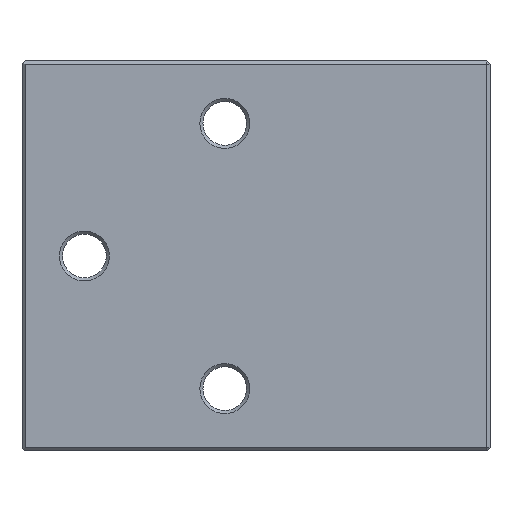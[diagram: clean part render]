
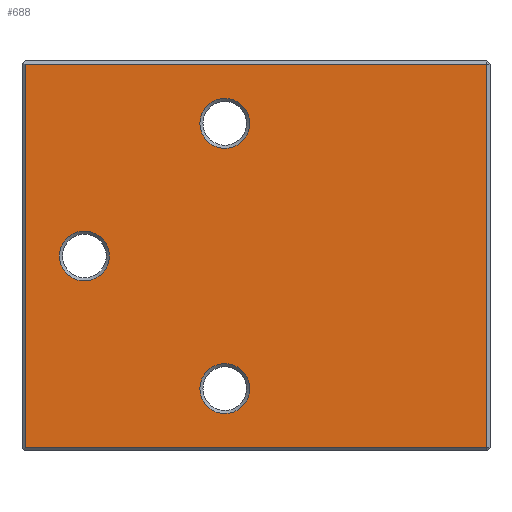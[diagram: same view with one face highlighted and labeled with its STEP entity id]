
A CAD part, front view. The second image highlights one B-rep face of the part: STEP entity #688.
In plain terms, the highlighted planar face has unit normal (0, -1, 0).
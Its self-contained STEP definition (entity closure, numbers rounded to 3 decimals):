
#44=FACE_BOUND('',#116,.T.);
#45=FACE_BOUND('',#117,.T.);
#46=FACE_BOUND('',#118,.T.);
#53=PLANE('',#751);
#74=FACE_OUTER_BOUND('',#115,.T.);
#115=EDGE_LOOP('',(#456,#457,#458,#459));
#116=EDGE_LOOP('',(#460));
#117=EDGE_LOOP('',(#461));
#118=EDGE_LOOP('',(#462));
#165=LINE('',#1060,#216);
#166=LINE('',#1062,#217);
#167=LINE('',#1064,#218);
#168=LINE('',#1065,#219);
#216=VECTOR('',#842,10.);
#217=VECTOR('',#843,10.);
#218=VECTOR('',#844,10.);
#219=VECTOR('',#845,10.);
#266=CIRCLE('',#749,8.);
#268=CIRCLE('',#752,8.);
#269=CIRCLE('',#753,8.);
#298=VERTEX_POINT('',#1052);
#300=VERTEX_POINT('',#1058);
#301=VERTEX_POINT('',#1059);
#302=VERTEX_POINT('',#1061);
#303=VERTEX_POINT('',#1063);
#304=VERTEX_POINT('',#1066);
#305=VERTEX_POINT('',#1068);
#357=EDGE_CURVE('',#298,#298,#266,.T.);
#360=EDGE_CURVE('',#300,#301,#165,.T.);
#361=EDGE_CURVE('',#302,#300,#166,.T.);
#362=EDGE_CURVE('',#303,#302,#167,.T.);
#363=EDGE_CURVE('',#301,#303,#168,.T.);
#364=EDGE_CURVE('',#304,#304,#268,.T.);
#365=EDGE_CURVE('',#305,#305,#269,.T.);
#456=ORIENTED_EDGE('',*,*,#360,.F.);
#457=ORIENTED_EDGE('',*,*,#361,.F.);
#458=ORIENTED_EDGE('',*,*,#362,.F.);
#459=ORIENTED_EDGE('',*,*,#363,.F.);
#460=ORIENTED_EDGE('',*,*,#364,.F.);
#461=ORIENTED_EDGE('',*,*,#365,.F.);
#462=ORIENTED_EDGE('',*,*,#357,.F.);
#688=ADVANCED_FACE('',(#74,#44,#45,#46),#53,.T.);
#749=AXIS2_PLACEMENT_3D('',#1053,#835,#836);
#751=AXIS2_PLACEMENT_3D('',#1057,#840,#841);
#752=AXIS2_PLACEMENT_3D('',#1067,#846,#847);
#753=AXIS2_PLACEMENT_3D('',#1069,#848,#849);
#835=DIRECTION('center_axis',(0.,-1.,0.));
#836=DIRECTION('ref_axis',(1.,0.,0.));
#840=DIRECTION('center_axis',(0.,-1.,0.));
#841=DIRECTION('ref_axis',(1.,0.,0.));
#842=DIRECTION('',(-1.,0.,0.));
#843=DIRECTION('',(0.,0.,-1.));
#844=DIRECTION('',(1.,0.,0.));
#845=DIRECTION('',(0.,0.,1.));
#846=DIRECTION('center_axis',(0.,-1.,0.));
#847=DIRECTION('ref_axis',(1.,0.,0.));
#848=DIRECTION('center_axis',(0.,-1.,0.));
#849=DIRECTION('ref_axis',(1.,0.,0.));
#1052=CARTESIAN_POINT('',(12.,0.,62.5));
#1053=CARTESIAN_POINT('Origin',(20.,0.,62.5));
#1057=CARTESIAN_POINT('Origin',(1.,0.,0.));
#1058=CARTESIAN_POINT('',(149.,0.,1.));
#1059=CARTESIAN_POINT('',(1.,0.,1.));
#1060=CARTESIAN_POINT('',(38.,0.,1.));
#1061=CARTESIAN_POINT('',(149.,0.,124.));
#1062=CARTESIAN_POINT('',(149.,0.,0.));
#1063=CARTESIAN_POINT('',(1.,0.,124.));
#1064=CARTESIAN_POINT('',(38.,0.,124.));
#1065=CARTESIAN_POINT('',(1.,0.,0.));
#1066=CARTESIAN_POINT('',(57.,0.,20.));
#1067=CARTESIAN_POINT('Origin',(65.,0.,20.));
#1068=CARTESIAN_POINT('',(57.,0.,105.));
#1069=CARTESIAN_POINT('Origin',(65.,0.,105.));
